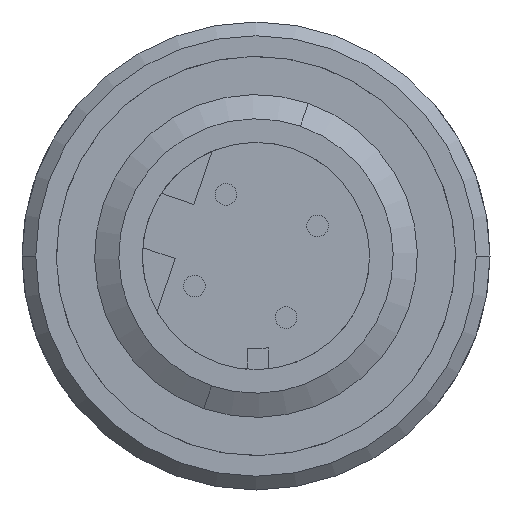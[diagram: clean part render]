
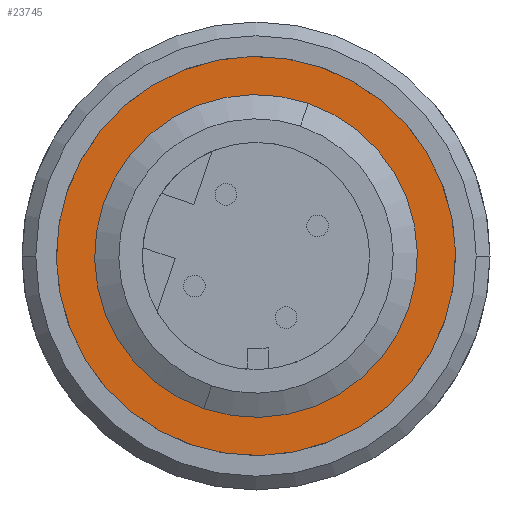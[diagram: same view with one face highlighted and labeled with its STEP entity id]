
A CAD part, front view. The second image highlights one B-rep face of the part: STEP entity #23745.
In plain terms, the highlighted planar face has unit normal (0, -1, 0).
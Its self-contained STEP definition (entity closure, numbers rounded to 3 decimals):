
#14321=CARTESIAN_POINT('',(0.,-6.276,0.));
#14322=DIRECTION('',(0.,1.,0.));
#14323=DIRECTION('',(0.324,0.,0.946));
#14324=AXIS2_PLACEMENT_3D('',#14321,#14322,#14323);
#14326=CARTESIAN_POINT('',(0.,-6.276,0.));
#14327=DIRECTION('',(0.,1.,0.));
#14328=DIRECTION('',(-0.324,0.,-0.946));
#14329=AXIS2_PLACEMENT_3D('',#14326,#14327,#14328);
#14331=CARTESIAN_POINT('',(0.,-6.276,0.));
#14332=DIRECTION('',(0.,-1.,0.));
#14333=DIRECTION('',(0.324,0.,0.946));
#14334=AXIS2_PLACEMENT_3D('',#14331,#14332,#14333);
#14336=CARTESIAN_POINT('',(0.,-6.276,0.));
#14337=DIRECTION('',(0.,-1.,0.));
#14338=DIRECTION('',(-0.324,0.,-0.946));
#14339=AXIS2_PLACEMENT_3D('',#14336,#14337,#14338);
#16829=CARTESIAN_POINT('',(-2.347,-6.276,
-6.859));
#16830=CARTESIAN_POINT('',(2.347,-6.276,
6.859));
#16831=VERTEX_POINT('',#16829);
#16832=VERTEX_POINT('',#16830);
#16833=CARTESIAN_POINT('',(1.65,-6.276,
4.822));
#16834=CARTESIAN_POINT('',(-1.65,-6.276,
-4.822));
#16835=VERTEX_POINT('',#16833);
#16836=VERTEX_POINT('',#16834);
#23729=CARTESIAN_POINT('',(0.,-6.276,0.));
#23730=DIRECTION('',(0.,1.,0.));
#23731=DIRECTION('',(-0.324,0.,-0.946));
#23732=AXIS2_PLACEMENT_3D('',#23729,#23730,#23731);
#23733=PLANE('',#23732);
#23735=ORIENTED_EDGE('',*,*,#23734,.T.);
#23736=ORIENTED_EDGE('',*,*,#23719,.T.);
#23737=EDGE_LOOP('',(#23735,#23736));
#23738=FACE_OUTER_BOUND('',#23737,.F.);
#23740=ORIENTED_EDGE('',*,*,#23739,.T.);
#23742=ORIENTED_EDGE('',*,*,#23741,.T.);
#23743=EDGE_LOOP('',(#23740,#23742));
#23744=FACE_BOUND('',#23743,.F.);
#23745=ADVANCED_FACE('',(#23738,#23744),#23733,.F.);
#14325=CIRCLE('',#14324,7.25);
#14330=CIRCLE('',#14329,7.25);
#14335=CIRCLE('',#14334,5.096);
#14340=CIRCLE('',#14339,5.096);
#23719=EDGE_CURVE('',#16831,#16832,#14330,.T.);
#23734=EDGE_CURVE('',#16832,#16831,#14325,.T.);
#23739=EDGE_CURVE('',#16835,#16836,#14335,.T.);
#23741=EDGE_CURVE('',#16836,#16835,#14340,.T.);
